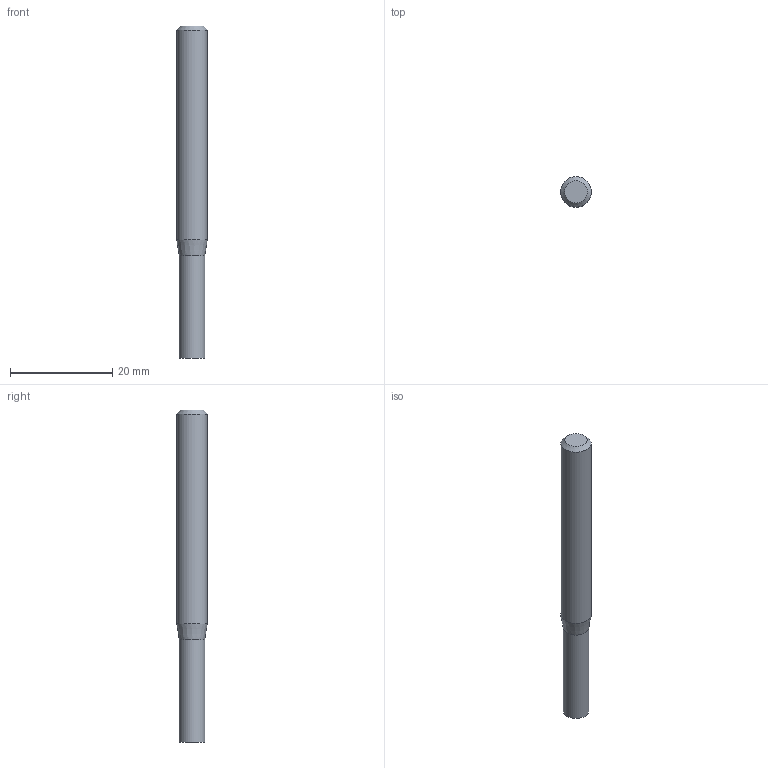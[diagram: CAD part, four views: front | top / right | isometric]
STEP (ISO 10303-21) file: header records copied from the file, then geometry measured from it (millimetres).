
FILE_DESCRIPTION((''),'2;1');
FILE_NAME('C:\Users\nsx150\AppData\Local\Temp\Mastercam 2021\W9Z147XDNF\TEMP.step','2021-04-08T14:48:33',(''),(''),'STEP Write','Mastercam 2021 ... CNC Software, Inc.','');
FILE_SCHEMA(('AUTOMOTIVE_DESIGN'));
Length unit declared in the file: millimetre
Products named in the file (1): None
Bounding box: 6 x 6 x 65 mm (x, y, z)
Volume: 1645.5 mm3; surface area: 1235.6 mm2
Topology: 2 solids, 2 shells, 8 faces, 10 edges, 6 vertices
Faces by surface type: plane 4, cylinder 2, cone 2
Full cylindrical faces by diameter (mm): 5 x1, 6 x1
Entity records: 190 total; most frequent: DIRECTION 32, CARTESIAN_POINT 22, AXIS2_PLACEMENT_3D 16, ORIENTED_EDGE 12, EDGE_LOOP 12, STYLED_ITEM 11, ADVANCED_FACE 8, VERTEX_POINT 6
